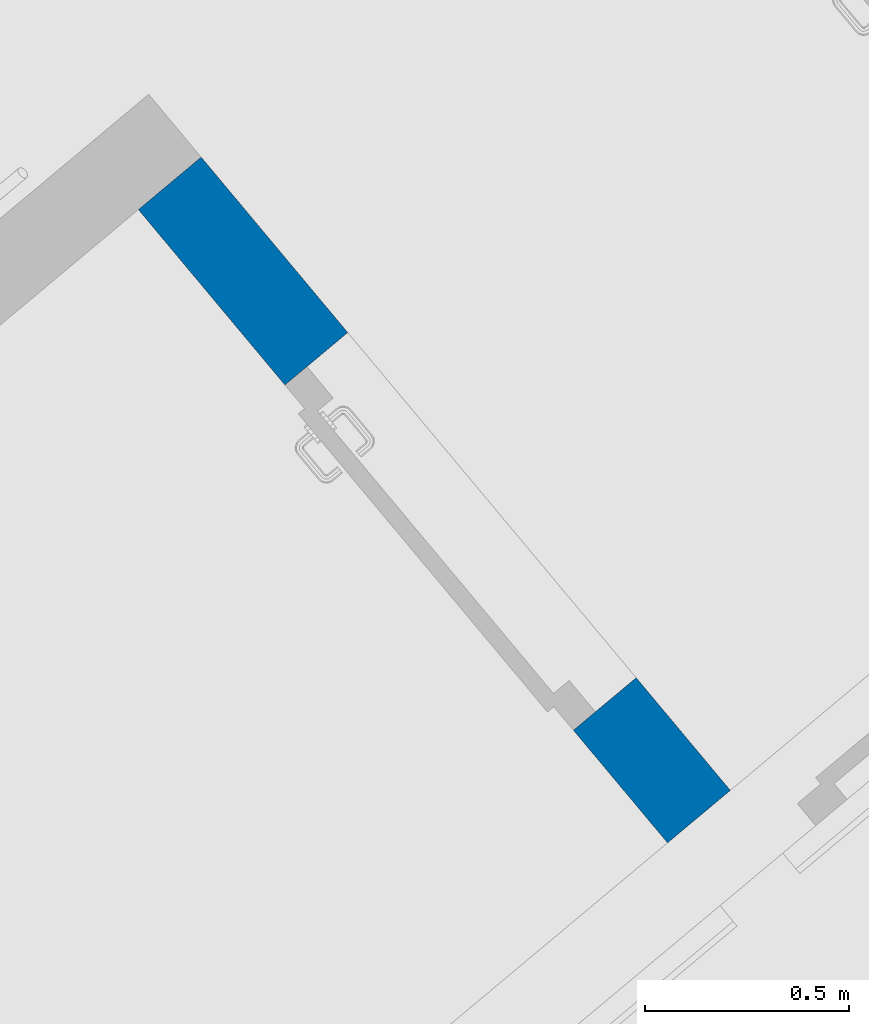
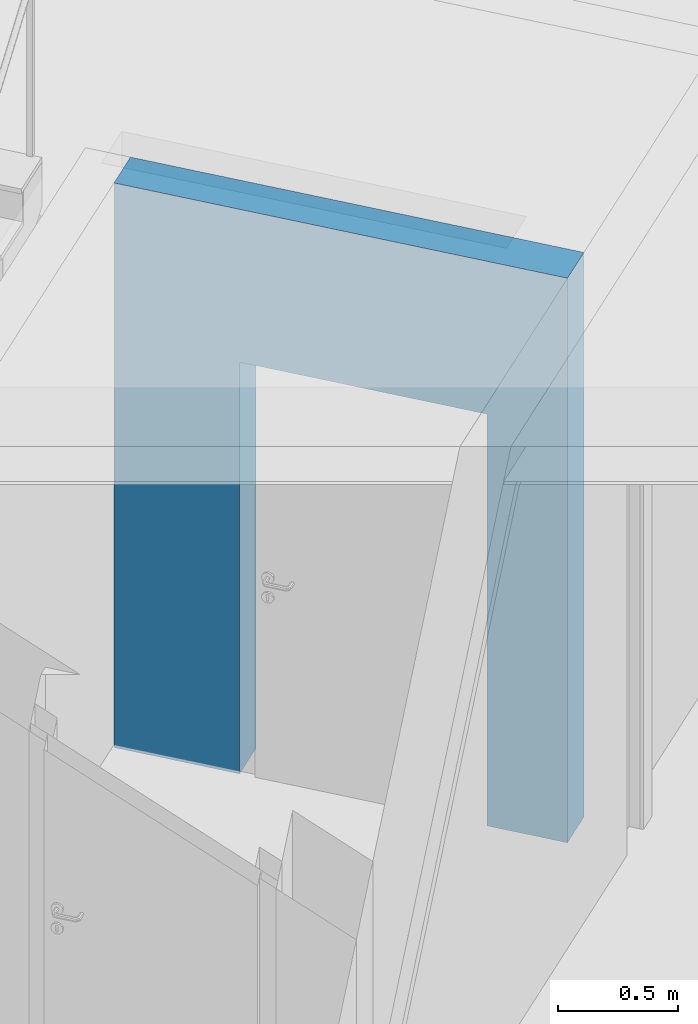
# One storey, part 2 of 17: 1 wall, 1 opening.
"""IFC4 building model written with IfcOpenShell, lengths in metres."""

from ifc_helpers import new_model, entity, si_unit, converted_unit, derived_unit, direction, frame, origin_with_axes, place, context, subcontext, project, spatial, polygons, material, type_object, element, save


model = new_model("IFC4")

# Units and contexts
model_context = context("Model", 3, precision=1e-05, world=origin_with_axes(), true_north=direction((0.0, 1.0)))
body_context = subcontext(model_context, "Body", "Model", "MODEL_VIEW")
ifc_project = project(units=[si_unit("LENGTHUNIT", "METRE"), si_unit("AREAUNIT", "SQUARE_METRE"), si_unit("VOLUMEUNIT", "CUBIC_METRE"), converted_unit("PLANEANGLEUNIT", "DEGREE", entity("IfcPlaneAngleMeasure", 0.0174532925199), si_unit("PLANEANGLEUNIT", "RADIAN"), dimensions=[0, 0, 0, 0, 0, 0, 0]), converted_unit("TIMEUNIT", "Year", entity("IfcTimeMeasure", 31556926.0), si_unit("TIMEUNIT", "SECOND"), dimensions=[0, 0, 1, 0, 0, 0, 0]), si_unit("MASSUNIT", "GRAM", prefix="KILO"), si_unit("THERMODYNAMICTEMPERATUREUNIT", "DEGREE_CELSIUS"), si_unit("LUMINOUSINTENSITYUNIT", "LUMEN"), si_unit("ENERGYUNIT", "JOULE", prefix="MEGA"), derived_unit("THERMALCONDUCTANCEUNIT", [(si_unit("POWERUNIT", "WATT"), 1), (si_unit("LENGTHUNIT", "METRE"), -1), (si_unit("THERMODYNAMICTEMPERATUREUNIT", "KELVIN"), -1)]), derived_unit("SPECIFICHEATCAPACITYUNIT", [(si_unit("ENERGYUNIT", "JOULE"), 1), (si_unit("MASSUNIT", "GRAM", prefix="KILO"), -1), (si_unit("THERMODYNAMICTEMPERATUREUNIT", "KELVIN"), -1)]), derived_unit("MASSDENSITYUNIT", [(si_unit("MASSUNIT", "GRAM", prefix="KILO"), 1), (si_unit("VOLUMEUNIT", "CUBIC_METRE"), -1)])], contexts=[model_context])

# Site, building, storey
site_placement = place(None, frame((-0.00153261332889, -0.00661245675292, 0.0), z_axis=(0.0, 0.0, 1.0), x_axis=(1.0, 0.0, 0.0)))
site = spatial("IfcSite", under=ifc_project, at=site_placement, Name="Site", CompositionType="ELEMENT")
building_placement = place(site_placement, origin_with_axes())
building = spatial("IfcBuilding", under=site, at=building_placement, Name="Building", CompositionType="ELEMENT")
storey_placement = place(building_placement, frame((0.0, 0.0, -3.3), z_axis=(0.0, 0.0, 1.0), x_axis=(1.0, 0.0, 0.0)))
storey = spatial("IfcBuildingStorey", under=building, at=storey_placement, Name="UG1", CompositionType="ELEMENT", Elevation=-3.3)

# Wall, opening
ifc_material = material(Name="Stahlbeton Wand")
wall_type = type_object("IfcWallType", Name="Stahlbeton Wand 200", PredefinedType="NOTDEFINED")
wall_placement = place(storey_placement, frame((0.640173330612, 22.6708037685, 0.0), z_axis=(0.0, 0.0, 1.0), x_axis=(0.641209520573, -0.767365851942, 0.0)))
wall = element("IfcWall", 1, at=wall_placement, inside=storey, type_object=wall_type, material=ifc_material, Name="Wand-005", PredefinedType="NOTDEFINED", context=body_context, shape_type="Tessellation", body=[
    polygons([(0.558899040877, 0.2, 2.1), (0.558899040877, 0.2, 0.015), (0.558899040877, 0.2, 0.0), (0.0, 0.2, 0.0), (0.0, 0.2, 2.88), (2.0177980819, 0.2, 2.88), (2.0177980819, 0.2, 0.0), (1.65889904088, 0.2, 0.0), (1.65889904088, 0.2, 0.015), (1.65889904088, 0.2, 2.1), (0.558899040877, 0.0, 2.1), (0.558899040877, 0.0, 0.015), (0.558899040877, 0.0, 0.0), (0.0, 0.0, 0.0), (0.0, 0.0, 2.88), (2.0177980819, 0.0, 2.88), (2.0177980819, 0.0, 0.0), (1.65889904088, 0.0, 0.0), (1.65889904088, 0.0, 0.015), (1.65889904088, 0.0, 2.1)], [[[1, 2, 3, 4, 5, 6, 7, 8, 9, 10]], [[2, 1, 11, 12]], [[2, 12, 13, 3]], [[3, 13, 14, 4]], [[5, 4, 14, 15]], [[16, 6, 5, 15]], [[17, 7, 6, 16]], [[18, 8, 7, 17]], [[19, 9, 8, 18]], [[10, 9, 19, 20]], [[1, 10, 20, 11]], [[20, 19, 18, 17, 16, 15, 14, 13, 12, 11]]], closed=True),
])
opening_placement = place(wall_placement, frame((1.10889904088, 0.0, 0.0), z_axis=(0.0, 0.0, 1.0), x_axis=(1.0, 0.0, 0.0)))
element("IfcOpeningElement", 2, at=opening_placement, cuts=wall, Name="Tür-001", context=body_context, identifier="Reference", shape_type="Tessellation", body=[
    polygons([(0.55, 1.29225044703, 2.1), (0.55, 1.29225044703, 0.0), (-0.55, 1.29225044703, 0.0), (-0.55, 1.29225044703, 2.1), (0.55, -1.09225044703, 2.1), (0.55, -1.09225044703, 0.0), (-0.55, -1.09225044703, 0.0), (-0.55, -1.09225044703, 2.1)], [[[1, 2, 3, 4]], [[5, 6, 2, 1]], [[6, 7, 3, 2]], [[7, 8, 4, 3]], [[8, 5, 1, 4]], [[7, 6, 5, 8]]], closed=True),
])

save(model, "model.ifc")
